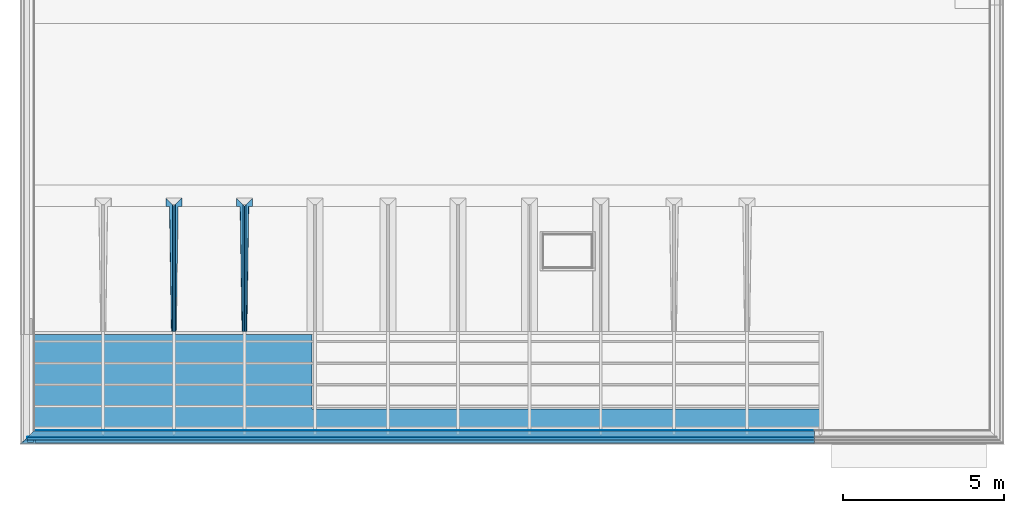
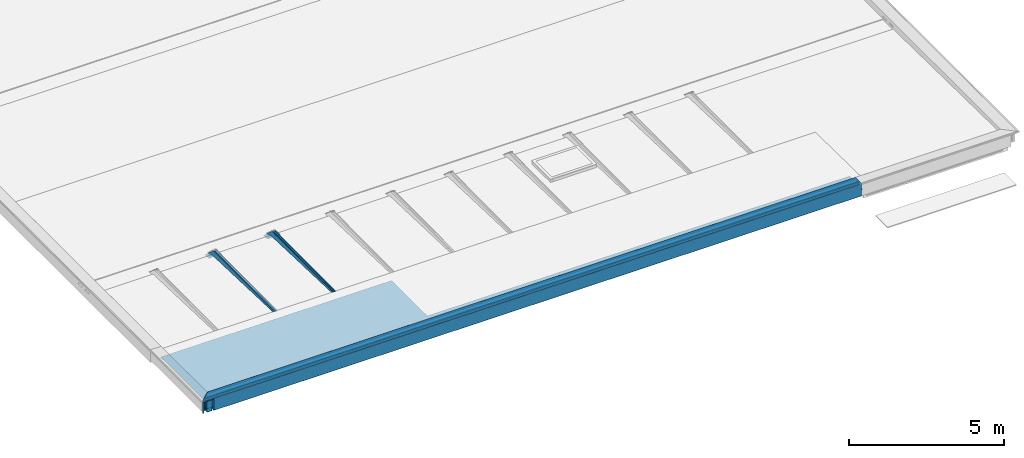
# One storey, part 6 of 16: 21 building element parts, 6 elements without a shape of their own.
"""IFC2X3 building model written with IfcOpenShell, lengths in millimetres."""

from ifc_helpers import new_model, entity, si_unit, converted_unit, derived_unit, money_unit, direction, frame, origin_with_axes, place, context, subcontext, project, spatial, faceted_brep, material, type_object, element, aggregate, save


model = new_model("IFC2X3")

# Units and contexts
model_context = context("Model", 3, precision=0.01, world=origin_with_axes(), true_north=direction((0.0, 1.0)))
body_context = subcontext(model_context, "Body", "Model", "MODEL_VIEW")
ifc_project = project(units=[si_unit("LENGTHUNIT", "METRE", prefix="MILLI"), si_unit("AREAUNIT", "SQUARE_METRE"), si_unit("VOLUMEUNIT", "CUBIC_METRE"), converted_unit("PLANEANGLEUNIT", "DEGREE", entity("IfcPlaneAngleMeasure", 0.0174532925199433), si_unit("PLANEANGLEUNIT", "RADIAN"), dimensions=[0, 0, 0, 0, 0, 0, 0]), money_unit("EUR"), converted_unit("TIMEUNIT", "Year", entity("IfcTimeMeasure", 31556926.0), si_unit("TIMEUNIT", "SECOND"), dimensions=[0, 0, 1, 0, 0, 0, 0]), si_unit("MASSUNIT", "GRAM", prefix="KILO"), si_unit("THERMODYNAMICTEMPERATUREUNIT", "DEGREE_CELSIUS"), si_unit("LUMINOUSINTENSITYUNIT", "LUMEN"), si_unit("ENERGYUNIT", "JOULE", prefix="MEGA"), derived_unit("THERMALCONDUCTANCEUNIT", [(si_unit("POWERUNIT", "WATT"), 1), (si_unit("LENGTHUNIT", "METRE"), -1), (si_unit("THERMODYNAMICTEMPERATUREUNIT", "KELVIN"), -1)]), derived_unit("SPECIFICHEATCAPACITYUNIT", [(si_unit("ENERGYUNIT", "JOULE"), 1), (si_unit("MASSUNIT", "GRAM", prefix="KILO"), -1), (si_unit("THERMODYNAMICTEMPERATUREUNIT", "KELVIN"), -1)]), derived_unit("MASSDENSITYUNIT", [(si_unit("MASSUNIT", "GRAM", prefix="KILO"), 1), (si_unit("VOLUMEUNIT", "CUBIC_METRE"), -1)])], contexts=[model_context])

# Site, building, storey
site_placement = place(None, origin_with_axes())
site = spatial("IfcSite", under=ifc_project, at=site_placement, Name="Site", CompositionType="ELEMENT")
building_placement = place(site_placement, origin_with_axes())
building = spatial("IfcBuilding", under=site, at=building_placement, Name="Naam gebouw", CompositionType="ELEMENT")
storey_placement = place(building_placement, frame((0.0, 0.0, 7820.0), z_axis=(0.0, 0.0, 1.0), x_axis=(1.0, 0.0, 0.0)))
storey = spatial("IfcBuildingStorey", under=building, at=storey_placement, Name="2e dakoverzicht", CompositionType="ELEMENT", Elevation=7820.0)

# Slab, building element part
slab_type = type_object("IfcSlabType", Name="45 Geisoleerd buiten plafond 80 104", PredefinedType="NOTDEFINED")
slab_placement = place(storey_placement, frame((131.9999969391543, 6779.999776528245, 99.00004846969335), z_axis=(0.0, 0.0, 1.0), x_axis=(1.0, 0.0, 0.0)))
slab = element("IfcSlab", 1, at=slab_placement, inside=storey, type_object=slab_type, Name="_Vloer-x", PredefinedType="NOTDEFINED")
ifc_material_1 = material(Name="STO lijmlaag")
building_element_part_1_placement = place(slab_placement, origin_with_axes())
building_element_part_1 = element("IfcBuildingElementPart", 2, at=building_element_part_1_placement, material=ifc_material_1, Name="STO lijmlaag", context=body_context, shape_type="Brep", body=[
    faceted_brep([(0.0002821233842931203, -3180.001961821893, -15.99999999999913), (0.0002821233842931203, -3180.001961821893, -11.99999999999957), (0.0, 0.0, -11.99999999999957), (0.0, 0.0, -15.99999999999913), (24367.99909065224, -3179.999755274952, -15.99999999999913), (24367.99909065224, -3179.999755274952, -11.99999999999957), (24367.99901084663, -2299.999816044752, -11.99999999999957), (8618.000003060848, -2300.001242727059, -11.99999999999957), (8617.99979404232, 0.0009164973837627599, -11.99999999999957), (8617.99979404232, 0.0009164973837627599, -15.99999999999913), (8618.000003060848, -2300.001242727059, -15.99999999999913), (24367.99901084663, -2299.999816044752, -15.99999999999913)], [[[0, 1, 2, 3]], [[4, 5, 1, 0]], [[2, 1, 5, 6, 7, 8]], [[3, 2, 8, 9]], [[3, 9, 10, 11, 4, 0]], [[11, 6, 5, 4]], [[10, 7, 6, 11]], [[9, 8, 7, 10]]]),
])
aggregate(slab, [building_element_part_1])

# Beam, building element parts
beam_type_1 = type_object("IfcBeamType", Name="47 Dakrand stucwerk overstek 428 x 514", PredefinedType="BEAM")
beam_1_placement = place(storey_placement, frame((24323.99903999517, 3600.000000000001, 480.0000000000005), z_axis=(0.0, 0.0, 1.0), x_axis=(0.0, 1.0, 0.0)))
beam_1 = element("IfcBeam", 3, at=beam_1_placement, inside=storey, type_object=beam_type_1, Name="28_Balk-x", ObjectType="BEAM")
ifc_material_2 = material(Name="STO pleisterlaag")
building_element_part_2_placement = place(beam_1_placement, origin_with_axes())
building_element_part_2 = element("IfcBuildingElementPart", 4, at=building_element_part_2_placement, material=ifc_material_2, Name="STO pleisterlaag", context=body_context, shape_type="Brep", body=[
    faceted_brep([(-146.0000238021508, 24541.71034439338, -482.0000007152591), (-146.0000238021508, 24495.99902319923, -482.0000007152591), (-101.8352350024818, 24495.99902439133, -482.0000007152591), (-146.0000238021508, 24495.99902319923, -485.000000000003), (-146.0000238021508, 24541.71034439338, -485.000000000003), (-101.8352350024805, 24495.99902439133, -485.000000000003)], [[[0, 1, 2]], [[3, 1, 0, 4]], [[1, 3, 5, 2]], [[4, 0, 2, 5]], [[3, 4, 5]]]),
    faceted_brep([(-36.00002085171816, 24387.99902319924, -482.0000007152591), (-156.0000208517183, 24387.99902319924, -482.0000007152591), (-156.000018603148, 24191.99901929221, -482.0000007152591), (-88.00002108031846, 24191.99901929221, -482.0000007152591), (-88.0000250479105, 24139.99902319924, -482.0000007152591), (-173.0000007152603, 24139.99902319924, -482.0000007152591), (-173.0000007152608, 0.0, -482.0000007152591), (1.668928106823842e-06, 0.0, -482.0000007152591), (1.668928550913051e-06, 24390.59779373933, -482.0000007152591), (-36.00002085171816, 24427.85843947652, -482.0000007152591), (-36.00002085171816, 24387.99902319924, -485.000000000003), (-156.0000208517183, 24387.99902319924, -485.000000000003), (-156.000018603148, 24191.99901929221, -485.000000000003), (-88.00002108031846, 24191.99901929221, -485.000000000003), (-88.0000250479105, 24139.99902319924, -485.000000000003), (-176.0000208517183, 24139.99902319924, -485.000000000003), (-176.0000208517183, 24139.99902319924, -39.99999999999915), (-173.0000007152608, 24139.99902319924, -39.99999999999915), (-173.0000007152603, 24569.65578731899, -39.99999999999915), (-173.0000007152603, 24569.65578731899, 3.000000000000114), (-173.0000007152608, 0.0, 3.000000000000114), (-173.0000183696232, 24142.99902568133, -39.99999999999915), (-173.0000183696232, 24555.99901982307, -39.99999999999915), (-176.0000000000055, 0.0, 3.000000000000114), (-176.0000000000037, 0.0, -485.000000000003), (1.668928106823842e-06, 0.0, -485.000000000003), (1.668928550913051e-06, 24390.59779373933, -485.000000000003), (-36.00002085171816, 24427.85843947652, -485.000000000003), (-176.0000208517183, 24572.76083844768, -39.99999999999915), (-176.0000000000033, 24572.76083844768, 3.000000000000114)], [[[0, 1, 2, 3, 4, 5, 6, 7, 8, 9]], [[1, 0, 10, 11]], [[1, 11, 12, 2]], [[2, 12, 13, 3]], [[13, 14, 4, 3]], [[5, 4, 14, 15, 16, 17]], [[18, 19, 20, 6, 5, 17, 21, 22]], [[7, 6, 20, 23, 24, 25]], [[8, 7, 25, 26]], [[27, 9, 8, 26]], [[10, 0, 9, 27]], [[10, 27, 26, 25, 24, 15, 14, 13, 12, 11]], [[28, 16, 15, 24, 23, 29]], [[16, 28, 18, 22, 21, 17]], [[18, 28, 29, 19]], [[29, 23, 20, 19]]]),
])
building_element_part_3_placement = place(beam_1_placement, origin_with_axes())
building_element_part_3 = element("IfcBuildingElementPart", 5, at=building_element_part_3_placement, material=ifc_material_1, Name="STO lijmlaag", context=body_context, shape_type="Brep", body=[
    faceted_brep([(-88.00000000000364, 24387.99902319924, -39.99999999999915), (-88.00000000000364, 24481.67931695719, -39.99999999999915), (-83.99999639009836, 24477.53924406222, -39.99999999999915), (-83.99999639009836, 24387.99902319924, -39.99999999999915), (-88.00000000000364, 24387.99902319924, -397.0000032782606), (-88.00000000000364, 0.0, -397.0000032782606), (-88.00000000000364, 0.0, -6.999999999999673), (-88.00000000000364, 24481.67931695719, -6.999999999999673), (-83.99999639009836, 24477.53924406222, -6.999999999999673), (-83.99999639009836, 0.0, -6.999999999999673), (-83.99999639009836, 0.0, -392.9999996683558), (-83.99999639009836, 24387.99902319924, -392.9999996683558), (-36.00002085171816, 24387.99902319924, -392.9999996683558), (-36.00002085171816, 24387.99902319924, -397.0000032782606), (-36.00002085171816, 24427.85843947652, -397.0000032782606), (-1.942504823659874e-06, 24390.59779747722, -397.0000032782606), (-1.942505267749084e-06, 0.0, -397.0000032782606), (3.868953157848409e-06, 0.0, -392.9999996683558), (3.868953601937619e-06, 24390.59779146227, -392.9999996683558), (-36.00002085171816, 24427.85843947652, -392.9999996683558)], [[[0, 1, 2, 3]], [[1, 0, 4, 5, 6, 7]], [[2, 1, 7, 8]], [[2, 8, 9, 10, 11, 3]], [[11, 12, 13, 4, 0, 3]], [[13, 14, 15, 16, 5, 4]], [[6, 5, 16, 17, 10, 9]], [[9, 8, 7, 6]], [[12, 11, 10, 17, 18, 19]], [[13, 12, 19, 14]], [[14, 19, 18, 15]], [[16, 15, 18, 17]]]),
])
building_element_part_4_placement = place(beam_1_placement, origin_with_axes())
building_element_part_4 = element("IfcBuildingElementPart", 6, at=building_element_part_4_placement, material=ifc_material_1, Name="STO lijmlaag", context=body_context, shape_type="Brep", body=[
    faceted_brep([(-3.999997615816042, 24394.73786215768, -6.999999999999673), (-3.999997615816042, 24394.73786215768, -393.0000000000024), (-3.999997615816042, 0.0, -393.0000000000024), (-3.999997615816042, 0.0, -6.999999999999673), (2.503393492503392e-06, 24390.59779287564, -6.999999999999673), (2.503393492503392e-06, 24390.59779287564, -393.0000000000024), (2.503393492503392e-06, 0.0, -393.0000000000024), (2.503393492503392e-06, 0.0, -6.999999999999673)], [[[0, 1, 2, 3]], [[0, 4, 5, 1]], [[1, 5, 6, 2]], [[3, 2, 6, 7]], [[4, 0, 3, 7]], [[5, 4, 7, 6]]]),
])
ifc_material_3 = material(Name="STO weefsellaag")
building_element_part_5_placement = place(beam_1_placement, origin_with_axes())
building_element_part_5 = element("IfcBuildingElementPart", 7, at=building_element_part_5_placement, material=ifc_material_3, Name="STO weefsellaag", context=body_context, shape_type="Brep", body=[
    faceted_brep([(-146.0000238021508, 24541.71034439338, -477.0000021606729), (-146.0000238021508, 24495.99902319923, -477.0000021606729), (-101.8352350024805, 24495.99902439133, -477.0000021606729), (-146.0000238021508, 24495.99902319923, -482.0000000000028), (-146.0000238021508, 24541.71034439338, -482.0000000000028), (-101.8352350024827, 24495.99902439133, -482.0000000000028)], [[[0, 1, 2]], [[3, 1, 0, 4]], [[1, 3, 5, 2]], [[4, 0, 2, 5]], [[3, 4, 5]]]),
    faceted_brep([(-36.00002085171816, 24387.99902319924, -477.0000021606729), (-156.0000208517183, 24387.99902319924, -477.0000021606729), (-156.000018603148, 24191.99901929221, -477.0000021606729), (-88.00002108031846, 24191.99901929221, -477.0000021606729), (-88.0000250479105, 24139.99902319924, -477.0000021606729), (-168.000002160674, 24139.99902319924, -477.0000021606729), (-168.0000021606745, 0.0, -477.0000021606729), (-1.043085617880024e-06, 0.0, -477.0000021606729), (-1.043085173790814e-06, 24390.59779654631, -477.0000021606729), (-36.00002085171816, 24427.85843947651, -477.0000021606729), (-36.00002085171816, 24387.99902319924, -482.0000000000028), (-156.0000208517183, 24387.99902319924, -482.0000000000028), (-156.000018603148, 24191.99901929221, -482.0000000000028), (-88.00002108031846, 24191.99901929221, -482.0000000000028), (-88.0000250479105, 24139.99902319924, -482.0000000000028), (-173.0000000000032, 24139.99902319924, -482.0000000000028), (-173.0000000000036, 24139.99902319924, -39.99999999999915), (-168.0000021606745, 24139.99902319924, -39.99999999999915), (-168.000002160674, 24564.4807023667, -39.99999999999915), (-168.000002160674, 24564.4807023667, 3.000000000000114), (-168.0000021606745, 0.0, 3.000000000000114), (-168.0000221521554, 24147.9990218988, -39.99999999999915), (-168.0000221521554, 24550.9990217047, -39.99999999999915), (-173.0000000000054, 0.0, 3.000000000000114), (-173.0000000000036, 0.0, -482.0000000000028), (-1.043085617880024e-06, 0.0, -482.0000000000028), (-1.043085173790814e-06, 24390.59779654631, -482.0000000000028), (-36.00002085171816, 24427.85843947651, -482.0000000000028), (-173.0000000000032, 24569.65578657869, -39.99999999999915), (-173.0000208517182, 24555.99902040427, -39.99999999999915), (-173.0000208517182, 24142.99902319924, -39.99999999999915), (-173.0000000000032, 24569.65578657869, 3.000000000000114)], [[[0, 1, 2, 3, 4, 5, 6, 7, 8, 9]], [[1, 0, 10, 11]], [[1, 11, 12, 2]], [[2, 12, 13, 3]], [[13, 14, 4, 3]], [[5, 4, 14, 15, 16, 17]], [[18, 19, 20, 6, 5, 17, 21, 22]], [[6, 20, 23, 24, 25, 7]], [[8, 7, 25, 26]], [[27, 9, 8, 26]], [[10, 0, 9, 27]], [[10, 27, 26, 25, 24, 15, 14, 13, 12, 11]], [[28, 29, 30, 16, 15, 24, 23, 31]], [[29, 28, 18, 22, 21, 17, 16, 30]], [[18, 28, 31, 19]], [[31, 23, 20, 19]]]),
])
ifc_material_4 = material(Name="47 waterdichte laag - bitumen")
building_element_part_6_placement = place(beam_1_placement, origin_with_axes())
building_element_part_6 = element("IfcBuildingElementPart", 8, at=building_element_part_6_placement, material=ifc_material_4, Name="47 waterdichte laag - bitumen", context=body_context, shape_type="Brep", body=[
    faceted_brep([(-188.1351360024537, 24585.32091402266, 28.48044654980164), (-188.1351360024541, 0.0, 28.48044654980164), (216.9999999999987, 0.0, 14.40779136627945), (216.9999999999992, 24165.99904360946, 14.40779136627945), (-210.6578497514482, 0.0, 28.48044654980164), (-210.6578497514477, 24608.63231216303, 28.48044654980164), (-210.7348536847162, 0.0, 26.26365222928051), (214.0000023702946, 0.0, 11.51018169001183), (214.0000023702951, 24169.10409302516, 11.51018169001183), (-210.7348536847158, 24608.71201256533, 26.26365222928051)], [[[0, 1, 2, 3]], [[4, 1, 0, 5]], [[1, 4, 6, 7, 2]], [[2, 7, 8, 3]], [[5, 0, 3, 8, 9]], [[4, 5, 9, 6]], [[7, 6, 9, 8]]]),
])
building_element_part_7_placement = place(beam_1_placement, origin_with_axes())
building_element_part_7 = element("IfcBuildingElementPart", 9, at=building_element_part_7_placement, material=ifc_material_4, Name="47 waterdichte laag - bitumen", context=body_context, shape_type="Brep", body=[
    faceted_brep([(213.9999999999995, 24169.10409547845, 11.51018437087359), (214.0000007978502, 24169.10409465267, -7.000000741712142), (214.0000007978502, 0.0, -7.000000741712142), (213.9999999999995, 0.0, 11.51018437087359), (216.9999999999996, 24165.99904360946, 14.4077885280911), (216.9999999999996, 24165.99904360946, -191.9999999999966), (213.9999999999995, 24169.10409547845, -191.9999999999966), (213.9999999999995, 0.0, -191.9999999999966), (216.9999999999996, 0.0, -191.9999999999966), (216.9999999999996, 0.0, 14.4077885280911)], [[[0, 1, 2, 3]], [[0, 4, 5, 6, 1]], [[1, 6, 7, 2]], [[3, 2, 7, 8, 9]], [[4, 0, 3, 9]], [[5, 4, 9, 8]], [[6, 5, 8, 7]]]),
])
ifc_material_5 = material(Name="Isolatie - STO EPS")
building_element_part_8_placement = place(beam_1_placement, origin_with_axes())
building_element_part_8 = element("IfcBuildingElementPart", 10, at=building_element_part_8_placement, material=ifc_material_5, Name="Isolatie - STO EPS", context=body_context, shape_type="Brep", body=[
    faceted_brep([(-36.00002085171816, 24387.99902319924, -397.000000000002), (-88.00000000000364, 24387.99902319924, -397.000000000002), (-88.00000000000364, 0.0, -397.000000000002), (0.0, 0.0, -397.000000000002), (0.0, 24390.5977954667, -397.000000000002), (-36.00002085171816, 24427.85843947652, -397.000000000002), (-36.00002085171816, 24387.99902319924, -477.000000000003), (-88.00000000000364, 24387.99902319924, -477.000000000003), (-88.00000000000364, 0.0, -477.000000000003), (0.0, 0.0, -477.000000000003), (0.0, 24390.5977954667, -477.000000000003), (-36.00002085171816, 24427.85843947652, -477.000000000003)], [[[0, 1, 2, 3, 4, 5]], [[1, 0, 6, 7]], [[1, 7, 8, 2]], [[3, 2, 8, 9]], [[9, 10, 4, 3]], [[11, 5, 4, 10]], [[6, 0, 5, 11]], [[6, 11, 10, 9, 8, 7]]]),
])
ifc_material_6 = material(Name="Isolatie - Kunststof hard")
building_element_part_9_placement = place(beam_1_placement, origin_with_axes())
building_element_part_9 = element("IfcBuildingElementPart", 11, at=building_element_part_9_placement, material=ifc_material_6, Name="Isolatie - Kunststof hard", context=body_context, shape_type="Brep", body=[
    faceted_brep([(14.9999999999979, 24375.07253612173, -44.99999904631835), (14.9999999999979, 24375.07253612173, -154.0000002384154), (14.9999999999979, 0.0, -154.0000002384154), (14.9999999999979, 0.0, -44.99999904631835), (199.0000000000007, 24184.62935482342, -44.99999904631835), (199.0000000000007, 24184.62935482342, -154.0000002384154), (199.0000000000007, 0.0, -154.0000002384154), (199.0000000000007, 0.0, -44.99999904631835)], [[[0, 1, 2, 3]], [[0, 4, 5, 1]], [[1, 5, 6, 2]], [[3, 2, 6, 7]], [[4, 0, 3, 7]], [[5, 4, 7, 6]]]),
])
ifc_material_7 = material(Name="Cementgebonden plaatmateriaal")
building_element_part_10_placement = place(beam_1_placement, origin_with_axes())
building_element_part_10 = element("IfcBuildingElementPart", 12, at=building_element_part_10_placement, material=ifc_material_7, Name="Cementgebonden plaatmateriaal", context=body_context, shape_type="Brep", body=[
    faceted_brep([(0.0, 24390.5977954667, -393.0000000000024), (15.00000044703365, 24375.07253565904, -393.0000000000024), (15.0000004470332, 0.0, -393.0000000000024), (0.0, 0.0, -393.0000000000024), (0.0, 24390.5977954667, -6.999999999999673), (15.00000044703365, 24375.07253565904, -6.999999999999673), (15.00000044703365, 24375.07253565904, -191.9999997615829), (15.0000004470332, 0.0, -191.9999997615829), (15.0000004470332, 0.0, -6.999999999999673), (0.0, 0.0, -6.999999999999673)], [[[0, 1, 2, 3]], [[0, 4, 5, 6, 1]], [[1, 6, 7, 2]], [[3, 2, 7, 8, 9]], [[4, 0, 3, 9]], [[5, 4, 9, 8]], [[6, 5, 8, 7]]]),
])
building_element_part_11_placement = place(beam_1_placement, origin_with_axes())
building_element_part_11 = element("IfcBuildingElementPart", 13, at=building_element_part_11_placement, material=ifc_material_5, Name="Isolatie - STO EPS", context=body_context, shape_type="Brep", body=[
    faceted_brep([(-84.0000000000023, 24387.99902319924, -39.99999999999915), (-84.0000000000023, 24477.53924779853, -39.99999999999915), (-36.00002085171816, 24427.85843947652, -39.99999999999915), (-36.00002085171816, 24387.99902319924, -39.99999999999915), (-84.00000000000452, 24387.99902319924, -393.0000000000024), (-84.00000000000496, 0.0, -393.0000000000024), (-84.0000000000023, 0.0, -6.999999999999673), (-84.0000000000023, 24477.53924779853, -6.999999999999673), (-4.00000000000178, 24394.73786462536, -6.999999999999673), (-4.000000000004, 24394.73786462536, -393.0000000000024), (-36.00002085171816, 24427.85843947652, -393.0000000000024), (-36.00002085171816, 24387.99902319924, -393.0000000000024), (-4.000000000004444, 0.0, -393.0000000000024), (-4.00000000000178, 0.0, -6.999999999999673)], [[[0, 1, 2, 3]], [[1, 0, 4, 5, 6, 7]], [[1, 7, 8, 9, 10, 2]], [[11, 3, 2, 10]], [[11, 4, 0, 3]], [[11, 10, 9, 12, 5, 4]], [[5, 12, 13, 6]], [[13, 8, 7, 6]], [[12, 9, 8, 13]]]),
])
ifc_material_8 = material(Name="Hout C")
building_element_part_12_placement = place(beam_1_placement, origin_with_axes())
building_element_part_12 = element("IfcBuildingElementPart", 14, at=building_element_part_12_placement, material=ifc_material_8, Name="Hout C", context=body_context, shape_type="Brep", body=[
    faceted_brep([(199.0000000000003, 24184.62935482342, -153.9999999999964), (14.9999999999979, 24375.07253612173, -153.9999999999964), (14.9999999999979, 0.0, -153.9999999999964), (198.9999999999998, 0.0, -153.9999999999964), (199.0000000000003, 24184.62935482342, -191.9999999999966), (14.9999999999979, 24375.07253612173, -191.9999999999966), (14.9999999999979, 0.0, -191.9999999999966), (198.9999999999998, 0.0, -191.9999999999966)], [[[0, 1, 2, 3]], [[0, 4, 5, 1]], [[1, 5, 6, 2]], [[3, 2, 6, 7]], [[4, 0, 3, 7]], [[5, 4, 7, 6]]]),
])
building_element_part_13_placement = place(beam_1_placement, origin_with_axes())
building_element_part_13 = element("IfcBuildingElementPart", 15, at=building_element_part_13_placement, material=ifc_material_8, Name="Hout C", context=body_context, shape_type="Brep", body=[
    faceted_brep([(15.00000000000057, 24375.07253612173, -6.999999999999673), (15.00000000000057, 24375.07253612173, -44.99999999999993), (15.00000000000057, 0.0, -44.99999999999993), (15.00000000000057, 0.0, -6.999999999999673), (199.0000000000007, 24184.62935482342, -6.999999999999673), (199.0000000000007, 24184.62935482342, -44.99999999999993), (199.0000000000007, 0.0, -44.99999999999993), (199.0000000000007, 0.0, -6.999999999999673)], [[[0, 1, 2, 3]], [[0, 4, 5, 1]], [[1, 5, 6, 2]], [[3, 2, 6, 7]], [[4, 0, 3, 7]], [[5, 4, 7, 6]]]),
])
building_element_part_14_placement = place(beam_1_placement, origin_with_axes())
building_element_part_14 = element("IfcBuildingElementPart", 16, at=building_element_part_14_placement, material=ifc_material_5, Name="Isolatie - STO EPS", context=body_context, shape_type="Brep", body=[
    faceted_brep([(-88.00000000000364, 24387.99902319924, -39.99999999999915), (-156.0000208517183, 24387.99902319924, -39.99999999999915), (-156.000018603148, 24191.99901929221, -39.99999999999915), (-88.00002108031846, 24191.99901929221, -39.99999999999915), (-88.0000250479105, 24139.99902319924, -39.99999999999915), (-168.0000000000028, 24139.99902319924, -39.99999999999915), (-168.0000208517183, 24147.9990234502, -39.99999999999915), (-168.0000208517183, 24550.99902283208, -39.99999999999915), (-168.0000000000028, 24564.48070013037, -39.99999999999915), (-146.0000238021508, 24541.71034439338, -39.99999999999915), (-146.0000238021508, 24495.99902319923, -39.99999999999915), (-101.8352337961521, 24495.99902314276, -39.99999999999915), (-88.00000000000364, 24481.67931695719, -39.99999999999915), (-88.00000681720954, 24387.99902319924, -477.000000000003), (-156.0000208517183, 24387.99902319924, -477.000000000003), (-156.000018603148, 24191.99901929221, -477.000000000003), (-88.00002108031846, 24191.99901929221, -477.000000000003), (-88.00000000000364, 24481.67931695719, -6.999999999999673), (-88.00000000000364, 0.0, -6.999999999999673), (-88.00000000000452, 0.0, -477.000000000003), (-88.0000250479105, 24139.99902319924, -477.000000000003), (-168.0000000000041, 24139.99902319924, -477.000000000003), (-168.0000000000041, 0.0, -477.000000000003), (-168.0000000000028, 0.0, 3.000000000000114), (-168.0000000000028, 24564.48070013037, 3.000000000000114), (-101.8352350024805, 24495.99902439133, -477.000000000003), (-146.0000238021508, 24541.71034439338, -477.000000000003), (-88.00000000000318, 24481.67931695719, 3.000000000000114), (-146.0000238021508, 24495.99902319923, -477.000000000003), (-88.00000000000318, 0.0, 3.000000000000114)], [[[0, 1, 2, 3, 4, 5, 6, 7, 8, 9, 10, 11, 12]], [[0, 13, 14, 1]], [[1, 14, 15, 2]], [[2, 15, 16, 3]], [[0, 12, 17, 18, 19, 20, 4, 3, 16, 13]], [[4, 20, 21, 5]], [[7, 6, 5, 21, 22, 23, 24, 8]], [[12, 11, 25, 26, 9, 8, 24, 27, 17]], [[28, 10, 9, 26]], [[10, 28, 25, 11]], [[14, 13, 16, 15]], [[18, 17, 27, 29]], [[23, 22, 19, 18, 29]], [[21, 20, 19, 22]], [[29, 27, 24, 23]], [[28, 26, 25]]]),
])
aggregate(beam_1, [building_element_part_2, building_element_part_3, building_element_part_4, building_element_part_5, building_element_part_6, building_element_part_7, building_element_part_8, building_element_part_9, building_element_part_10, building_element_part_11, building_element_part_12, building_element_part_13, building_element_part_14])

beam_type_2 = type_object("IfcBeamType", Name="47 IPE inpakken 250 x 203", PredefinedType="BEAM")
beam_2_placement = place(storey_placement, frame((6707.999999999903, 6880.000000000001, 269.9999999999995), z_axis=(0.0, 0.0, 1.0), x_axis=(1.0, 0.0, 0.0)))
beam_2 = element("IfcBeam", 17, at=beam_2_placement, inside=storey, type_object=beam_type_2, Name="_Regenwaterafvoer-x", ObjectType="BEAM")
building_element_part_15_placement = place(beam_2_placement, origin_with_axes())
building_element_part_15 = element("IfcBuildingElementPart", 18, at=building_element_part_15_placement, material=ifc_material_4, Name="47 waterdichte laag - bitumen", context=body_context, shape_type="Brep", body=[
    faceted_brep([(33.04263989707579, 5.343542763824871e-05, 21.20000001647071), (91.24264203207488, 3880.000055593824, -37.00000001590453), (204.2426399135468, 3880.000055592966, -150.0000000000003), (204.2426399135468, 4134.242695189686, -150.0000000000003), (1.242640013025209, 3931.242695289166, 52.99999990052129), (1.242640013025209, 0.0, 52.99999990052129), (28.80000052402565, 5.343527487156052e-05, 21.20000001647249), (87.00000027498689, 3880.000055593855, -37.00000001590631), (199.9999981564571, 3880.000055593, -150.0000000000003), (199.9999981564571, 4130.000053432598, -150.0000000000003), (-45.50000000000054, 3884.50005527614, 50.00000164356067), (-45.50000000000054, 3884.50005527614, 52.99999990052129), (2.34354757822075e-07, 3930.000055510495, 50.00000164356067), (-45.50000000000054, 0.0, 52.99999990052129), (-45.50000000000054, 0.0, 50.00000164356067), (2.34354757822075e-07, 0.0, 50.00000164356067)], [[[0, 1, 2, 3, 4, 5]], [[1, 0, 6, 7]], [[8, 2, 1, 7]], [[2, 8, 9, 3]], [[10, 11, 4, 3, 9, 12]], [[5, 4, 11, 13]], [[6, 0, 5, 13, 14, 15]], [[7, 6, 15, 12, 9, 8]], [[13, 11, 10, 14]], [[14, 10, 12, 15]]]),
])
building_element_part_16_placement = place(beam_2_placement, origin_with_axes())
building_element_part_16 = element("IfcBuildingElementPart", 19, at=building_element_part_16_placement, material=ifc_material_6, Name="Isolatie - Kunststof hard", context=body_context, shape_type="Brep", body=[
    faceted_brep([(28.79999998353, 5.343527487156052e-05, 21.20000001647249), (87.00000001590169, 3880.000055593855, -37.00000001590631), (199.999999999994, 3880.000055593, -150.0000000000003), (199.999999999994, 4130.000055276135, -150.0000000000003), (0.0, 3930.000055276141, 50.00000000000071), (0.0, 0.0, 50.00000000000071), (-45.50000000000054, 5.343259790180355e-05, 21.20000001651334), (-45.50000000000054, 1413.333387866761, 0.0), (0.0, 1413.333387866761, 0.0), (0.0, 3880.000055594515, -37.00000001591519), (0.0, 3880.000055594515, -150.0000000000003), (0.0, 3930.000055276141, -150.0000000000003), (0.0, 3930.000055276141, 0.0), (-45.50000000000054, 3884.50005527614, 0.0), (-45.50000000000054, 3884.50005527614, 50.00000000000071), (-45.50000000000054, 0.0, 50.00000000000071)], [[[0, 1, 2, 3, 4, 5]], [[1, 0, 6, 7, 8, 9]], [[10, 2, 1, 9]], [[2, 10, 11, 3]], [[4, 3, 11, 12, 13, 14]], [[5, 4, 14, 15]], [[6, 0, 5, 15]], [[7, 6, 15, 14, 13]], [[8, 7, 13, 12]], [[9, 8, 12, 11, 10]]]),
])
aggregate(beam_2, [building_element_part_15, building_element_part_16])

beam_3_placement = place(storey_placement, frame((6616.999999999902, 10810.00005527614, 269.9999999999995), z_axis=(0.0, 0.0, 1.0), x_axis=(-1.0, 0.0, 0.0)))
beam_3 = element("IfcBeam", 20, at=beam_3_placement, inside=storey, type_object=beam_type_2, Name="_Regenwaterafvoer-x", ObjectType="BEAM")
building_element_part_17_placement = place(beam_3_placement, origin_with_axes())
building_element_part_17 = element("IfcBuildingElementPart", 21, at=building_element_part_17_placement, material=ifc_material_4, Name="47 waterdichte laag - bitumen", context=body_context, shape_type="Brep", body=[
    faceted_brep([(33.04263989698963, 3930.000001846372, 21.20000001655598), (28.80000052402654, 3930.000001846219, 21.20000001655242), (2.343556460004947e-07, 3930.00005527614, 50.00000164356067), (-45.50000000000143, 3930.00005527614, 50.00000164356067), (-45.50000000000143, 3930.00005527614, 52.99999990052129), (1.242640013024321, 3930.00005527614, 52.99999990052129), (87.00000027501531, 49.99999968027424, -37.00000001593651), (91.2426420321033, 49.99999968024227, -37.00000001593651), (199.9999981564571, 49.99999967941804, -150.0000000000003), (199.9999981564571, -199.9999981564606, -150.0000000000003), (2.34354757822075e-07, -2.343583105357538e-07, 50.00000164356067), (-45.50000000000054, 45.49999999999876, 50.00000164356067), (-45.50000000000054, 45.49999999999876, 52.99999990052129), (1.242640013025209, -1.242640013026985, 52.99999990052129), (204.2426399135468, -204.2426399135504, -150.0000000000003), (204.2426399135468, 49.99999967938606, -150.0000000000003)], [[[0, 1, 2, 3, 4, 5]], [[6, 1, 0, 7]], [[6, 8, 9, 10, 2, 1]], [[11, 3, 2, 10]], [[12, 4, 3, 11]], [[13, 5, 4, 12]], [[7, 0, 5, 13, 14, 15]], [[8, 6, 7, 15]], [[8, 15, 14, 9]], [[13, 12, 11, 10, 9, 14]]]),
])
building_element_part_18_placement = place(beam_3_placement, origin_with_axes())
building_element_part_18 = element("IfcBuildingElementPart", 22, at=building_element_part_18_placement, material=ifc_material_6, Name="Isolatie - Kunststof hard", context=body_context, shape_type="Brep", body=[
    faceted_brep([(-45.49999999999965, 3930.000001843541, 21.20000001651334), (-45.50000000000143, 2516.666667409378, 0.0), (-45.50000000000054, 45.49999999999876, 0.0), (-45.50000000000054, 45.49999999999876, 50.00000000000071), (-45.50000000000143, 3930.00005527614, 50.00000000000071), (0.0, 2516.66666740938, 0.0), (28.79999998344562, 3930.000001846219, 21.20000001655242), (87.00000001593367, 49.99999968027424, -37.00000001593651), (0.0, 49.99999968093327, -37.00000001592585), (0.0, 0.0, 0.0), (0.0, 0.0, -150.0000000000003), (199.999999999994, -199.9999999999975, -150.0000000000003), (0.0, 0.0, 50.00000000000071), (0.0, 3930.00005527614, 50.00000000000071), (199.999999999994, 49.99999967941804, -150.0000000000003), (0.0, 49.99999968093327, -150.0000000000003)], [[[0, 1, 2, 3, 4]], [[5, 1, 0, 6, 7, 8]], [[1, 5, 9, 2]], [[10, 11, 12, 3, 2, 9]], [[12, 13, 4, 3]], [[6, 0, 4, 13]], [[7, 6, 13, 12, 11, 14]], [[15, 8, 7, 14]], [[8, 15, 10, 9, 5]], [[15, 14, 11, 10]]]),
])
aggregate(beam_3, [building_element_part_17, building_element_part_18])

# Beam, building element part
beam_4_placement = place(storey_placement, frame((4520.500000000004, 6880.000000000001, 269.9999999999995), z_axis=(0.0, 0.0, 1.0), x_axis=(1.0, 0.0, 0.0)))
beam_4 = element("IfcBeam", 23, at=beam_4_placement, inside=storey, type_object=beam_type_2, Name="_Regenwaterafvoer-x", ObjectType="BEAM")
building_element_part_19_placement = place(beam_4_placement, origin_with_axes())
building_element_part_19 = element("IfcBuildingElementPart", 24, at=building_element_part_19_placement, material=ifc_material_6, Name="Isolatie - Kunststof hard", context=body_context, shape_type="Brep", body=[
    faceted_brep([(28.79999998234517, 5.33564517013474e-05, 21.20000001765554), (87.0000000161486, 3880.00005561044, -37.000000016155), (199.999999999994, 3880.000055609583, -150.0000000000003), (199.999999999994, 4130.000055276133, -150.0000000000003), (0.0, 3930.000055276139, 50.00000000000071), (0.0, 0.0, 50.00000000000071), (-45.50000000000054, 5.335377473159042e-05, 21.20000001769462), (-45.50000000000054, 1413.333387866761, 0.0), (0.0, 1413.333387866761, 0.0), (0.0, 3880.0000556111, -37.00000001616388), (0.0, 3880.0000556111, -150.0000000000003), (0.0, 3930.000055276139, -150.0000000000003), (0.0, 3930.000055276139, 0.0), (-45.50000000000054, 3884.500055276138, 0.0), (-45.50000000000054, 3884.500055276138, 50.00000000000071), (-45.50000000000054, 0.0, 50.00000000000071)], [[[0, 1, 2, 3, 4, 5]], [[1, 0, 6, 7, 8, 9]], [[10, 2, 1, 9]], [[2, 10, 11, 3]], [[4, 3, 11, 12, 13, 14]], [[5, 4, 14, 15]], [[6, 0, 5, 15]], [[7, 6, 15, 14, 13]], [[8, 7, 13, 12]], [[9, 8, 12, 11, 10]]]),
])
aggregate(beam_4, [building_element_part_19])

# Beam, building element parts
beam_5_placement = place(storey_placement, frame((4429.500000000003, 10810.00005527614, 269.9999999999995), z_axis=(0.0, 0.0, 1.0), x_axis=(-1.0, 0.0, 0.0)))
beam_5 = element("IfcBeam", 25, at=beam_5_placement, inside=storey, type_object=beam_type_2, Name="_Regenwaterafvoer-x", ObjectType="BEAM")
building_element_part_20_placement = place(beam_5_placement, origin_with_axes())
building_element_part_20 = element("IfcBuildingElementPart", 26, at=building_element_part_20_placement, material=ifc_material_6, Name="Isolatie - Kunststof hard", context=body_context, shape_type="Brep", body=[
    faceted_brep([(-45.50000000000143, 3930.000001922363, 21.20000001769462), (-45.50000000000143, 2516.666667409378, 0.0), (-45.50000000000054, 45.50000000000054, 0.0), (-45.50000000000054, 45.50000000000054, 50.00000000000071), (-45.50000000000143, 3930.000055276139, 50.00000000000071), (0.0, 2516.666667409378, 0.0), (28.79999998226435, 3930.000001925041, 21.20000001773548), (87.00000001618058, 49.9999996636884, -37.0000000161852), (0.0, 49.9999996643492, -37.00000001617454), (0.0, 0.0, 0.0), (0.0, 0.0, -150.0000000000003), (199.999999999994, -199.999999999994, -150.0000000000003), (0.0, 0.0, 50.00000000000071), (0.0, 3930.000055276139, 50.00000000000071), (199.999999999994, 49.9999996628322, -150.0000000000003), (0.0, 49.9999996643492, -150.0000000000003)], [[[0, 1, 2, 3, 4]], [[5, 1, 0, 6, 7, 8]], [[1, 5, 9, 2]], [[10, 11, 12, 3, 2, 9]], [[12, 13, 4, 3]], [[6, 0, 4, 13]], [[7, 6, 13, 12, 11, 14]], [[15, 8, 7, 14]], [[8, 15, 10, 9, 5]], [[15, 14, 11, 10]]]),
])
building_element_part_21_placement = place(beam_5_placement, origin_with_axes())
building_element_part_21 = element("IfcBuildingElementPart", 27, at=building_element_part_21_placement, material=ifc_material_4, Name="47 waterdichte laag - bitumen", context=body_context, shape_type="Brep", body=[
    faceted_brep([(33.04263989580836, 3930.000001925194, 21.20000001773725), (28.80000052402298, 3930.000001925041, 21.20000001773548), (2.343538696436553e-07, 3930.000055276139, 50.00000164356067), (-45.50000000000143, 3930.000055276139, 50.00000164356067), (-45.50000000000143, 3930.000055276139, 52.99999990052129), (1.242640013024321, 3930.000055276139, 52.99999990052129), (87.00000027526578, 49.9999996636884, -37.0000000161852), (91.24264203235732, 49.99999966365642, -37.0000000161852), (199.9999981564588, 49.9999996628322, -150.0000000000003), (199.9999981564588, -199.9999981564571, -150.0000000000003), (2.34354757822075e-07, -2.34354757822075e-07, 50.00000164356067), (-45.50000000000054, 45.50000000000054, 50.00000164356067), (-45.50000000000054, 45.50000000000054, 52.99999990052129), (1.242640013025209, -1.242640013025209, 52.99999990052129), (204.2426399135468, -204.2426399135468, -150.0000000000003), (204.2426399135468, 49.99999966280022, -150.0000000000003)], [[[0, 1, 2, 3, 4, 5]], [[6, 1, 0, 7]], [[6, 8, 9, 10, 2, 1]], [[11, 3, 2, 10]], [[12, 4, 3, 11]], [[13, 5, 4, 12]], [[7, 0, 5, 13, 14, 15]], [[8, 6, 7, 15]], [[8, 15, 14, 9]], [[13, 12, 11, 10, 9, 14]]]),
])
aggregate(beam_5, [building_element_part_20, building_element_part_21])

save(model, "model.ifc")
